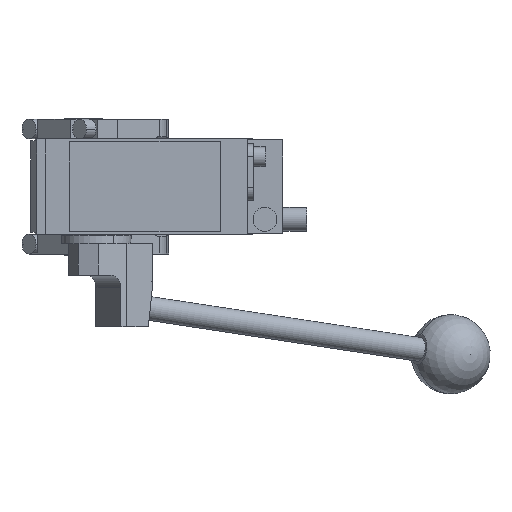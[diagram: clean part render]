
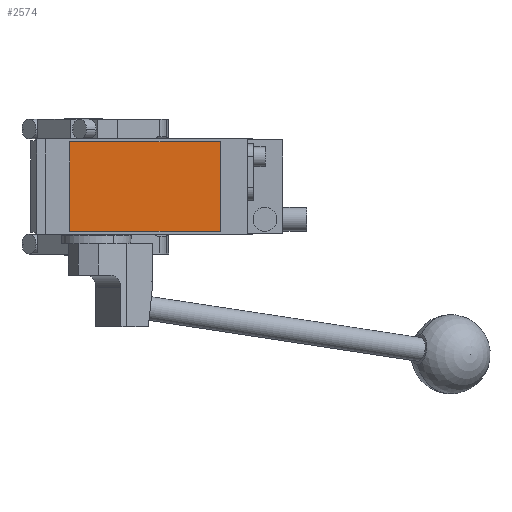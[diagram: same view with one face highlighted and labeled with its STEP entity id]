
A CAD part, front view. The second image highlights one B-rep face of the part: STEP entity #2574.
In plain terms, the highlighted planar face has unit normal (0, -1, 0).
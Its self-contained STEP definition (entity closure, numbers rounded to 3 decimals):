
#657 = AXIS2_PLACEMENT_3D ( 'NONE', #4103, #12665, #11476 ) ;
#659 = FACE_OUTER_BOUND ( 'NONE', #3382, .T. ) ;
#945 = VERTEX_POINT ( 'NONE', #8291 ) ;
#1167 = CARTESIAN_POINT ( 'NONE',  ( -7., -280.5, 22.5 ) ) ;
#2204 = EDGE_CURVE ( 'NONE', #945, #8606, #13488, .T. ) ;
#2574 = ADVANCED_FACE ( 'NONE', ( #659 ), #11554, .T. ) ;
#3382 = EDGE_LOOP ( 'NONE', ( #10122, #10630, #8103, #14421 ) ) ;
#3425 = VERTEX_POINT ( 'NONE', #7033 ) ;
#4103 = CARTESIAN_POINT ( 'NONE',  ( 0., -280.5, 0. ) ) ;
#5111 = CARTESIAN_POINT ( 'NONE',  ( 69., -280.5, 22.5 ) ) ;
#5526 = VERTEX_POINT ( 'NONE', #9679 ) ;
#5723 = VECTOR ( 'NONE', #9168, 1000. ) ;
#5770 = DIRECTION ( 'NONE',  ( 0., 0., -1. ) ) ;
#7033 = CARTESIAN_POINT ( 'NONE',  ( -7., -280.5, -22.5 ) ) ;
#7190 = VECTOR ( 'NONE', #15641, 1000. ) ;
#7667 = CARTESIAN_POINT ( 'NONE',  ( -7., -280.5, -22.5 ) ) ;
#8103 = ORIENTED_EDGE ( 'NONE', *, *, #2204, .T. ) ;
#8291 = CARTESIAN_POINT ( 'NONE',  ( 69., -280.5, -22.5 ) ) ;
#8380 = EDGE_CURVE ( 'NONE', #5526, #3425, #12582, .T. ) ;
#8606 = VERTEX_POINT ( 'NONE', #11360 ) ;
#9168 = DIRECTION ( 'NONE',  ( -1., 0., 0. ) ) ;
#9679 = CARTESIAN_POINT ( 'NONE',  ( -7., -280.5, 22.5 ) ) ;
#9790 = VECTOR ( 'NONE', #5770, 1000. ) ;
#10122 = ORIENTED_EDGE ( 'NONE', *, *, #8380, .T. ) ;
#10190 = LINE ( 'NONE', #7667, #11260 ) ;
#10630 = ORIENTED_EDGE ( 'NONE', *, *, #14217, .T. ) ;
#11260 = VECTOR ( 'NONE', #14827, 1000. ) ;
#11360 = CARTESIAN_POINT ( 'NONE',  ( 69., -280.5, 22.5 ) ) ;
#11476 = DIRECTION ( 'NONE',  ( 0., 0., -1. ) ) ;
#11554 = PLANE ( 'NONE',  #657 ) ;
#12582 = LINE ( 'NONE', #13021, #9790 ) ;
#12665 = DIRECTION ( 'NONE',  ( 0., -1., 0. ) ) ;
#13021 = CARTESIAN_POINT ( 'NONE',  ( -7., -280.5, 22.5 ) ) ;
#13488 = LINE ( 'NONE', #5111, #7190 ) ;
#14217 = EDGE_CURVE ( 'NONE', #3425, #945, #10190, .T. ) ;
#14421 = ORIENTED_EDGE ( 'NONE', *, *, #14878, .T. ) ;
#14827 = DIRECTION ( 'NONE',  ( 1., 0., 0. ) ) ;
#14878 = EDGE_CURVE ( 'NONE', #8606, #5526, #15296, .T. ) ;
#15296 = LINE ( 'NONE', #1167, #5723 ) ;
#15641 = DIRECTION ( 'NONE',  ( 0., 0., 1. ) ) ;
